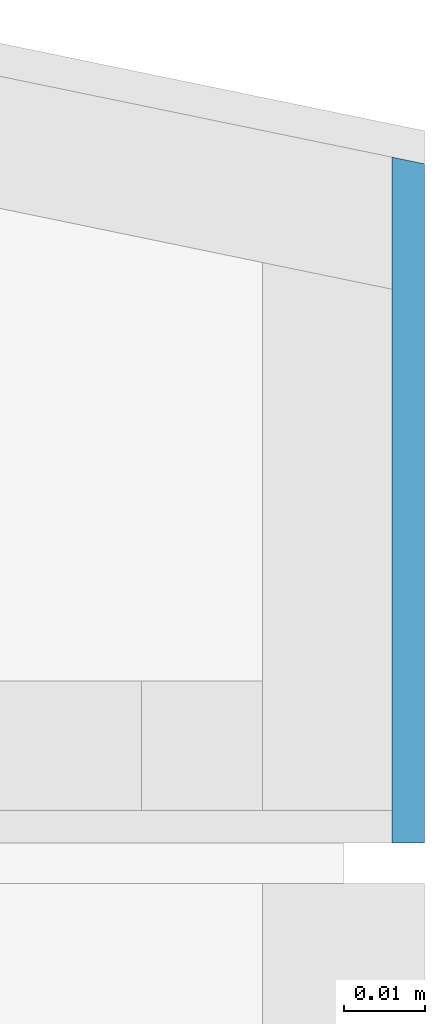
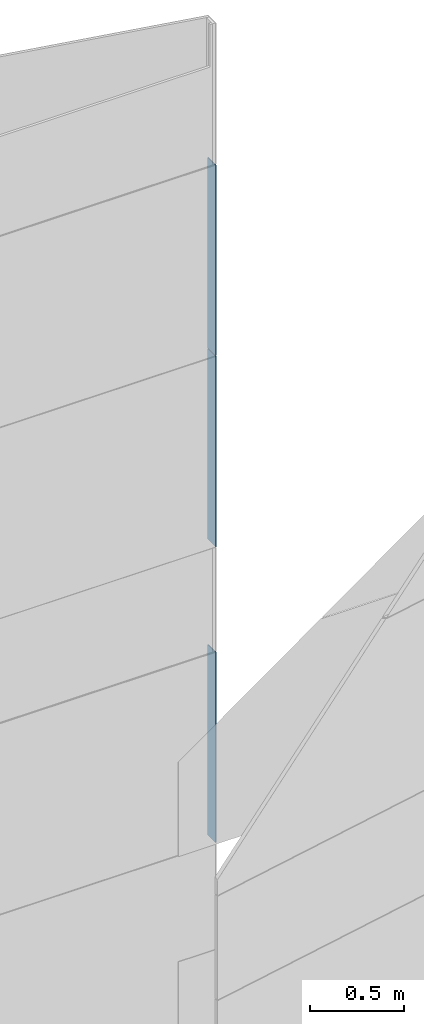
# One storey, part 18 of 125: 3 building element parts, 1 element without a shape of its own.
"""IFC2X3 building model written with IfcOpenShell, lengths in millimetres."""

from ifc_helpers import new_model, entity, si_unit, converted_unit, direction, frame, origin, place, context, subcontext, project, spatial, polyline, outline, extrude, material, type_object, element, aggregate, save


model = new_model("IFC2X3")

# Units and contexts
model_context = context("Model", 3, precision=0.01, world=origin(), true_north=direction((6.123233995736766e-17, 1.0)))
plan_context = context("Plan", 3, precision=0.01, world=origin(), true_north=direction((6.123233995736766e-17, 1.0)))
body_context = subcontext(model_context, "Body", "Model", "MODEL_VIEW")
ifc_project = project(units=[si_unit("LENGTHUNIT", "METRE", prefix="MILLI"), converted_unit("PLANEANGLEUNIT", "DEGREE", entity("IfcPlaneAngleMeasure", 0.017453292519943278), si_unit("PLANEANGLEUNIT", "RADIAN"), dimensions=[0, 0, 0, 0, 0, 0, 0]), si_unit("AREAUNIT", "SQUARE_METRE")], contexts=[model_context, plan_context])

# Site, building, storey
site_placement = place(None, origin())
site = spatial("IfcSite", under=ifc_project, at=site_placement, Name="Default", CompositionType="ELEMENT")
building_placement = place(site_placement, origin())
building = spatial("IfcBuilding", under=site, at=building_placement, CompositionType="ELEMENT")
storey_placement = place(building_placement, frame((0.0, 0.0, 3125.0)))
storey = spatial("IfcBuildingStorey", under=building, at=storey_placement, Name="2K", CompositionType="ELEMENT", Elevation=3125.0)

# Wall, building element parts
wall_type = type_object("IfcWallType", Name="Basic Wall:VS-komposiit", PredefinedType="STANDARD")
wall_placement = place(storey_placement, frame((18942.0, 5428.129167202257, -1010.0), z_axis=(0.0, 0.0, 1.0), x_axis=(0.0, -1.0, 0.0)))
wall = element("IfcWall", 1, at=wall_placement, inside=storey, type_object=wall_type, Name="Basic Wall:VS-komposiit", ObjectType="Basic Wall:VS-komposiit")
ifc_material = material(Name="_K. Välisviimistlus. Alumiinium-komposiitplaat")
building_element_part_1_placement = place(wall_placement, origin())
building_element_part_1 = element("IfcBuildingElementPart", 2, at=building_element_part_1_placement, material=ifc_material, Name="Part", context=body_context, shape_type="SweptSolid", body=[
    extrude(outline(polyline([(-42.61260185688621, -2.0), (42.20013519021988, -2.0), (42.20013519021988, 2.0), (-41.78766852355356, 2.0), (-42.61260185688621, -2.0)])), frame((29.575620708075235, 8.0, 8512.499999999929)), (0.0, 0.0, 1.0), 1240.000000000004),
])
building_element_part_2_placement = place(wall_placement, origin())
building_element_part_2 = element("IfcBuildingElementPart", 3, at=building_element_part_2_placement, material=ifc_material, Name="Part", context=body_context, shape_type="SweptSolid", body=[
    extrude(outline(polyline([(-42.61260185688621, -2.0), (42.20013519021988, -2.0), (42.20013519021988, 2.0), (-41.78766852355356, 2.0), (-42.61260185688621, -2.0)])), frame((29.575620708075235, 8.0, 7267.49999999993)), (0.0, 0.0, 1.0), 1240.000000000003),
])
building_element_part_3_placement = place(wall_placement, origin())
building_element_part_3 = element("IfcBuildingElementPart", 4, at=building_element_part_3_placement, material=ifc_material, Name="Part", context=body_context, shape_type="SweptSolid", body=[
    extrude(outline(polyline([(-42.61260185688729, -2.0), (42.20013519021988, -2.0), (42.20013519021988, 2.0), (-41.78766852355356, 2.0), (-42.61260185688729, -2.0)])), frame((29.575620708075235, 8.0, 5342.499999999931)), (0.0, 0.0, 1.0), 1240.0000000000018),
])
aggregate(wall, [building_element_part_1, building_element_part_2, building_element_part_3])

save(model, "model.ifc")
